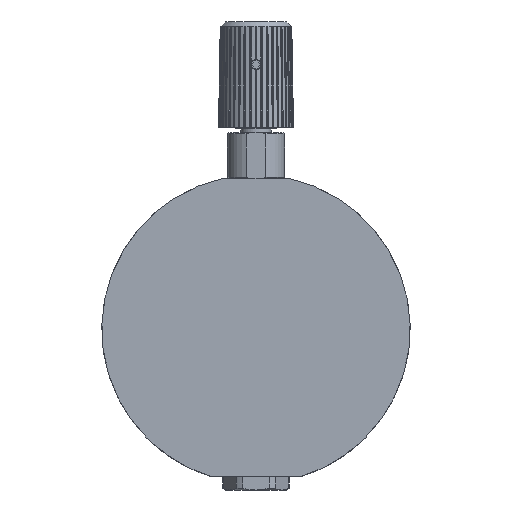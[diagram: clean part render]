
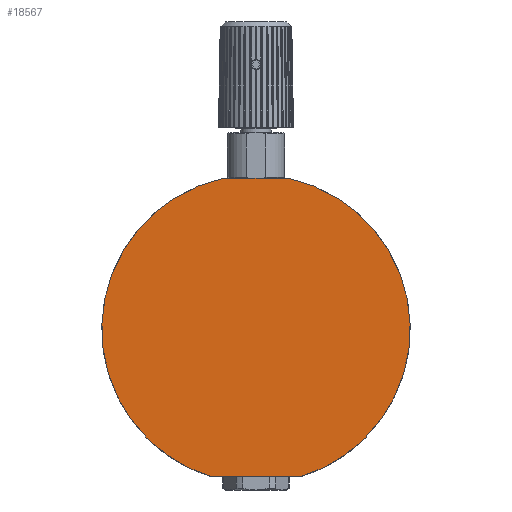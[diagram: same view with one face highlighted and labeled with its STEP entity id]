
A CAD part, front view. The second image highlights one B-rep face of the part: STEP entity #18567.
In plain terms, the highlighted planar face has unit normal (0, -1, 0).
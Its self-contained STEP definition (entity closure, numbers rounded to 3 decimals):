
#837=LINE('',#26376,#2524);
#938=LINE('',#26850,#2625);
#2524=VECTOR('',#21604,23.55);
#2625=VECTOR('',#21935,17.495);
#4298=PLANE('',#19787);
#5404=FACE_OUTER_BOUND('',#6501,.T.);
#6501=EDGE_LOOP('',(#13582,#13583,#13584,#13585));
#7519=CIRCLE('',#19670,40.75);
#7556=CIRCLE('',#19783,40.75);
#8147=VERTEX_POINT('',#26364);
#8149=VERTEX_POINT('',#26367);
#8152=VERTEX_POINT('',#26374);
#8282=VERTEX_POINT('',#26840);
#10090=EDGE_CURVE('',#8149,#8147,#7519,.T.);
#10094=EDGE_CURVE('',#8152,#8147,#837,.T.);
#10271=EDGE_CURVE('',#8152,#8282,#7556,.T.);
#10275=EDGE_CURVE('',#8149,#8282,#938,.T.);
#13582=ORIENTED_EDGE('',*,*,#10275,.F.);
#13583=ORIENTED_EDGE('',*,*,#10090,.T.);
#13584=ORIENTED_EDGE('',*,*,#10094,.F.);
#13585=ORIENTED_EDGE('',*,*,#10271,.T.);
#18567=ADVANCED_FACE('',(#5404),#4298,.T.);
#19670=AXIS2_PLACEMENT_3D('',#26368,#21596,#21597);
#19783=AXIS2_PLACEMENT_3D('',#26843,#21924,#21925);
#19787=AXIS2_PLACEMENT_3D('',#26849,#21933,#21934);
#21596=DIRECTION('center_axis',(0.,-1.,0.));
#21597=DIRECTION('ref_axis',(1.,0.,0.));
#21604=DIRECTION('',(-1.,0.,0.));
#21924=DIRECTION('center_axis',(0.,-1.,0.));
#21925=DIRECTION('ref_axis',(1.,0.,0.));
#21933=DIRECTION('center_axis',(0.,-1.,0.));
#21934=DIRECTION('ref_axis',(0.,0.,-1.));
#21935=DIRECTION('',(1.,0.,0.));
#26364=CARTESIAN_POINT('',(-11.775,0.,-39.012));
#26367=CARTESIAN_POINT('',(-8.748,0.,39.8));
#26368=CARTESIAN_POINT('Origin',(0.,0.,0.));
#26374=CARTESIAN_POINT('',(11.775,0.,-39.012));
#26376=CARTESIAN_POINT('',(30.563,0.,-39.012));
#26840=CARTESIAN_POINT('',(8.748,0.,39.8));
#26843=CARTESIAN_POINT('Origin',(0.,0.,0.));
#26849=CARTESIAN_POINT('Origin',(20.375,0.,0.));
#26850=CARTESIAN_POINT('',(-10.188,0.,39.8));
